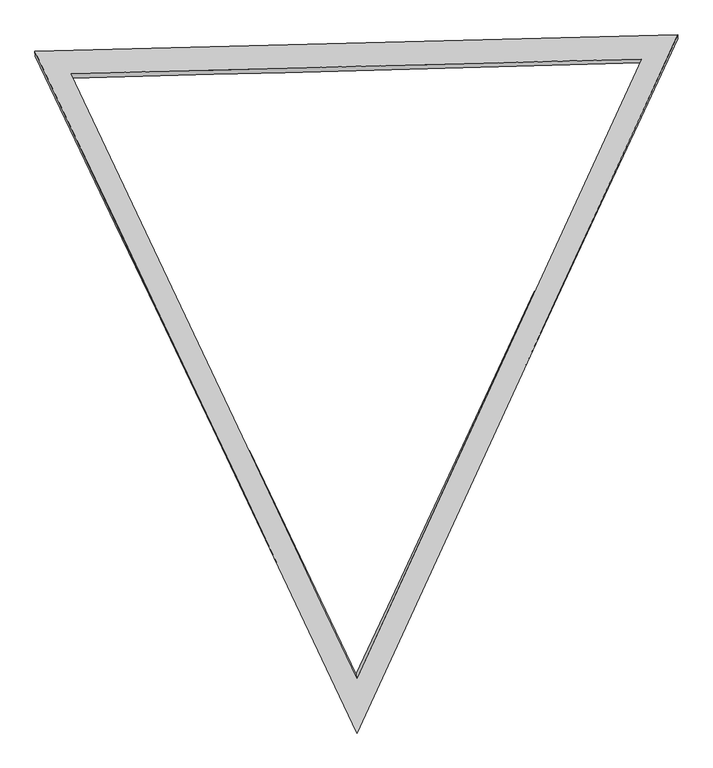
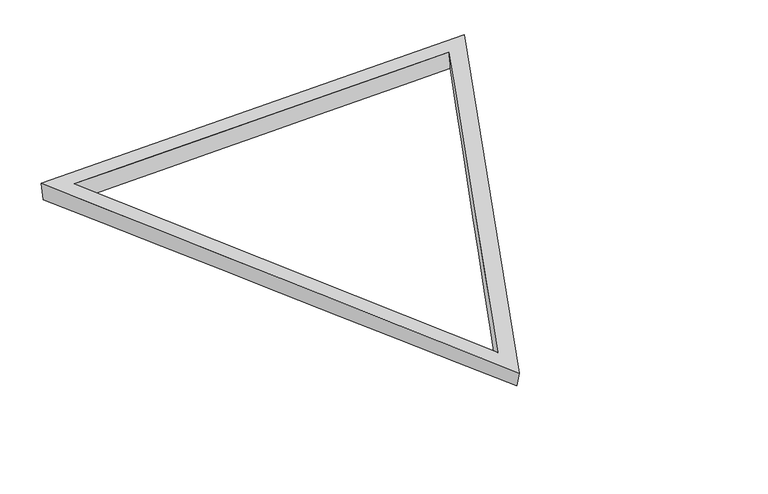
"""IFC4 building model written with IfcOpenShell, lengths in millimetres: plate geometry."""

from ifc_helpers import new_model, si_unit, frame, origin, place, context, project, spatial, source, transform, mapped, element, save
from ifc_brep_helpers import plane_surface, spline_surface, advanced_brep


def plate_a847c031(model_context):
    return source(origin(), model_context, "Body", "AdvancedBrep", [
        advanced_brep(
        [(3603.7372194, 6794.3471576, 0.0), (3601.474476, 6835.1125958, 199.0464447), (6100.2597216, 1553.7039629, 199.6627121), (6093.6553025, 1586.0255677, 0.0), (8584.920944, 6962.0506425, 200.4850508), (8583.5733856, 6928.9773098, 0.0), (6096.0, 1110.0002639, 0.0), (8906.5538986, 7140.9833516, 0.0), (8905.6751665, 7173.4867841, 200.581641), (6102.9685525, 1072.8526722, 199.65404), (3285.4461014, 6989.0163846, 0.0), (3284.3299906, 7030.30022, 198.9588883)],
        [
            (0, 1),
            (1, 2),
            (2, 3),
            (3, 0),
            (2, 4),
            (4, 5),
            (5, 3),
            (0, 5),
            (4, 1),
            (6, 7),
            (7, 8),
            (8, 9),
            (9, 6),
            (7, 10),
            (10, 11),
            (11, 8),
            (9, 11),
            (10, 6),
        ],
        [
            spline_surface(1, 1, [[(3603.7372194, 6794.3471576, 0.0), (6093.6553025, 1586.0255677, 0.0)], [(3601.474476, 6835.1125958, 199.0464447), (6100.2597216, 1553.7039629, 199.6627121)]], [2, 2], [2, 2], [0.0, 1.0], [0.0, 1.0]),
            spline_surface(1, 1, [[(6093.6553025, 1586.0255677, 0.0), (8583.5733856, 6928.9773098, 0.0)], [(6100.2597216, 1553.7039629, 199.6627121), (8584.920944, 6962.0506425, 200.4850508)]], [2, 2], [2, 2], [0.0, 1.0], [0.0, 1.0]),
            spline_surface(1, 1, [[(8583.5733856, 6928.9773098, 0.0), (3603.7372194, 6794.3471576, 0.0)], [(8584.920944, 6962.0506425, 200.4850508), (3601.474476, 6835.1125958, 199.0464447)]], [2, 2], [2, 2], [0.0, 1.0], [0.0, 1.0]),
            spline_surface(1, 1, [[(6096.0, 1110.0002639, 0.0), (6102.9685525, 1072.8526722, 199.65404)], [(8906.5538986, 7140.9833516, 0.0), (8905.6751665, 7173.4867841, 200.581641)]], [2, 2], [2, 2], [0.0, 1.0], [0.0, 1.0]),
            spline_surface(1, 1, [[(8906.5538986, 7140.9833516, 0.0), (8905.6751665, 7173.4867841, 200.581641)], [(3285.4461014, 6989.0163846, 0.0), (3284.3299906, 7030.30022, 198.9588883)]], [2, 2], [2, 2], [0.0, 1.0], [0.0, 1.0]),
            spline_surface(1, 1, [[(3285.4461014, 6989.0163846, 0.0), (3284.3299906, 7030.30022, 198.9588883)], [(6096.0, 1110.0002639, 0.0), (6102.9685525, 1072.8526722, 199.65404)]], [2, 2], [2, 2], [0.0, 1.0], [0.0, 1.0]),
            plane_surface(frame((6097.6579032, 5092.2132254, 199.7315231), z_axis=(-0.0002881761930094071, -1.9658216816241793e-05, 0.9999999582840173), x_axis=(0.427676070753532, -0.9039320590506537, 0.00010547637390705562))),
            plane_surface(frame((6096.0, 5080.0, 0.0), z_axis=(0.0, 0.0, -1.0000000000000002), x_axis=(-0.43131193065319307, 0.9022028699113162, 0.0))),
        ],
        [
            (0, [[1, 2, 3, 4]]),
            (1, [[-3, 5, 6, 7]]),
            (2, [[-1, 8, -6, 9]]),
            (3, [[10, 11, 12, 13]]),
            (4, [[-11, 14, 15, 16]]),
            (5, [[-13, 17, -15, 18]]),
            (6, [[-12, -16, -17], [-2, -9, -5]]),
            (7, [[-10, -18, -14], [-4, -7, -8]]),
        ],
    ),
    ])


if __name__ == "__main__":
    model = new_model("IFC4")
    model_context = context("Model", 3, world=origin())
    ifc_project = project(units=[si_unit("LENGTHUNIT", "METRE", prefix="MILLI")], contexts=[model_context])
    site = spatial("IfcSite", under=ifc_project)
    building = spatial("IfcBuilding", under=site)
    placement = place(None, origin())
    plate_shape = plate_a847c031(model_context)
    element("IfcPlate", 1, ObjectType="tn_cpanel_patbase_triangle_flat_seamless_frame_02_cylinder : tn_triangle_seamless_frame_t8\"xh8\"", at=placement, inside=building, context=model_context, shape_type="MappedRepresentation", body=[
        mapped(plate_shape, transform((0.0, 0.0, 0.0), x_axis=(1.0, 0.0, 0.0), y_axis=(0.0, 1.0, 0.0), z_axis=(0.0, 0.0, 1.0))),
    ])
    save(model, "model.ifc")
